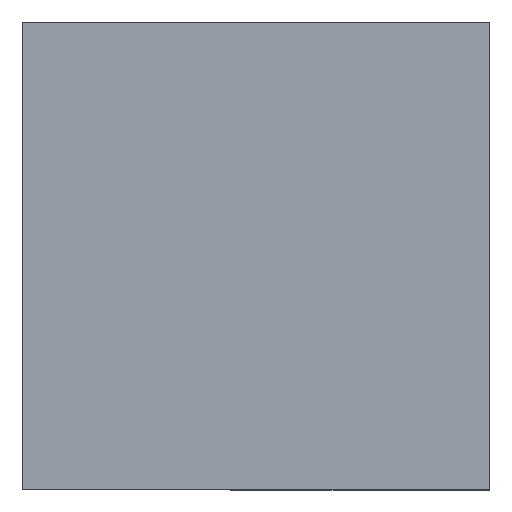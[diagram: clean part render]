
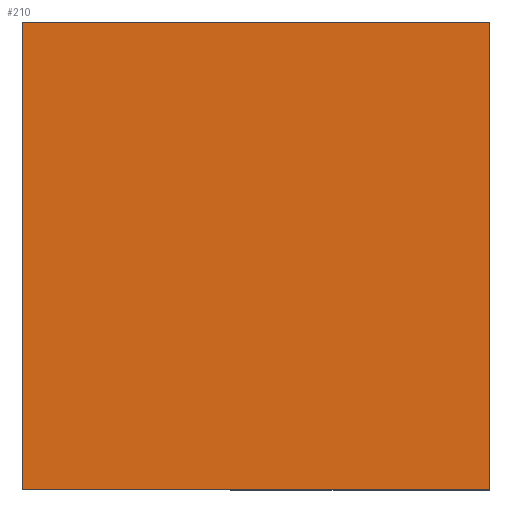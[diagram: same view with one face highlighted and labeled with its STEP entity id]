
A CAD part, top view. The second image highlights one B-rep face of the part: STEP entity #210.
In plain terms, the highlighted planar face has unit normal (0, 0, 1).
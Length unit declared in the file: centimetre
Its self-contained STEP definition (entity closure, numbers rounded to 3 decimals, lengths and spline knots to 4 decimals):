
#3 = VERTEX_POINT ( 'NONE', #363 ) ;
#15 = EDGE_CURVE ( 'NONE', #376, #126, #324, .T. ) ;
#42 = VECTOR ( 'NONE', #250, 100. ) ;
#49 = CARTESIAN_POINT ( 'NONE',  ( 0., 0., 1000. ) ) ;
#79 = ORIENTED_EDGE ( 'NONE', *, *, #483, .T. ) ;
#91 = ORIENTED_EDGE ( 'NONE', *, *, #131, .T. ) ;
#126 = VERTEX_POINT ( 'NONE', #283 ) ;
#129 = VECTOR ( 'NONE', #316, 100. ) ;
#131 = EDGE_CURVE ( 'NONE', #213, #376, #332, .T. ) ;
#157 = LINE ( 'NONE', #351, #161 ) ;
#161 = VECTOR ( 'NONE', #516, 100. ) ;
#186 = CARTESIAN_POINT ( 'NONE',  ( 1000., 1000., 1000. ) ) ;
#196 = AXIS2_PLACEMENT_3D ( 'NONE', #49, #299, #464 ) ;
#210 = ADVANCED_FACE ( 'NONE', ( #507 ), #510, .T. ) ;
#213 = VERTEX_POINT ( 'NONE', #186 ) ;
#221 = ORIENTED_EDGE ( 'NONE', *, *, #15, .T. ) ;
#250 = DIRECTION ( 'NONE',  ( -1., 0., 0. ) ) ;
#283 = CARTESIAN_POINT ( 'NONE',  ( 0., 0., 1000. ) ) ;
#291 = CARTESIAN_POINT ( 'NONE',  ( 0., 1000., 1000. ) ) ;
#295 = CARTESIAN_POINT ( 'NONE',  ( 0., 1000., 1000. ) ) ;
#299 = DIRECTION ( 'NONE',  ( 0., 0., 1. ) ) ;
#316 = DIRECTION ( 'NONE',  ( 1., 0., 0. ) ) ;
#324 = LINE ( 'NONE', #491, #326 ) ;
#325 = ORIENTED_EDGE ( 'NONE', *, *, #399, .T. ) ;
#326 = VECTOR ( 'NONE', #409, 100. ) ;
#332 = LINE ( 'NONE', #291, #42 ) ;
#351 = CARTESIAN_POINT ( 'NONE',  ( 1000., 1000., 1000. ) ) ;
#363 = CARTESIAN_POINT ( 'NONE',  ( 1000., 0., 1000. ) ) ;
#376 = VERTEX_POINT ( 'NONE', #295 ) ;
#399 = EDGE_CURVE ( 'NONE', #126, #3, #514, .T. ) ;
#404 = EDGE_LOOP ( 'NONE', ( #221, #325, #79, #91 ) ) ;
#409 = DIRECTION ( 'NONE',  ( 0., -1., 0. ) ) ;
#464 = DIRECTION ( 'NONE',  ( 1., 0., 0. ) ) ;
#469 = CARTESIAN_POINT ( 'NONE',  ( 0., 0., 1000. ) ) ;
#483 = EDGE_CURVE ( 'NONE', #3, #213, #157, .T. ) ;
#491 = CARTESIAN_POINT ( 'NONE',  ( 0., 1000., 1000. ) ) ;
#507 = FACE_OUTER_BOUND ( 'NONE', #404, .T. ) ;
#510 = PLANE ( 'NONE',  #196 ) ;
#514 = LINE ( 'NONE', #469, #129 ) ;
#516 = DIRECTION ( 'NONE',  ( 0., 1., 0. ) ) ;
